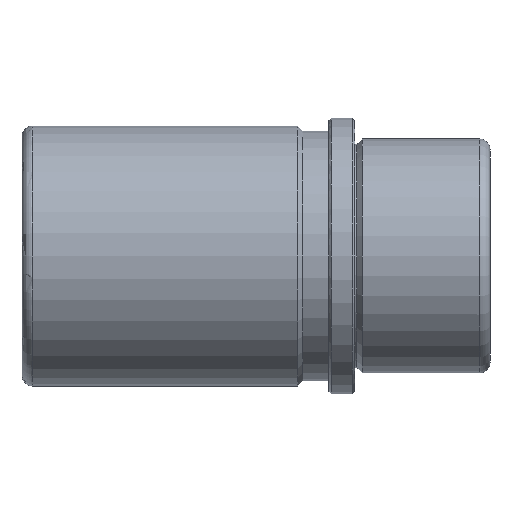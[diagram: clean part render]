
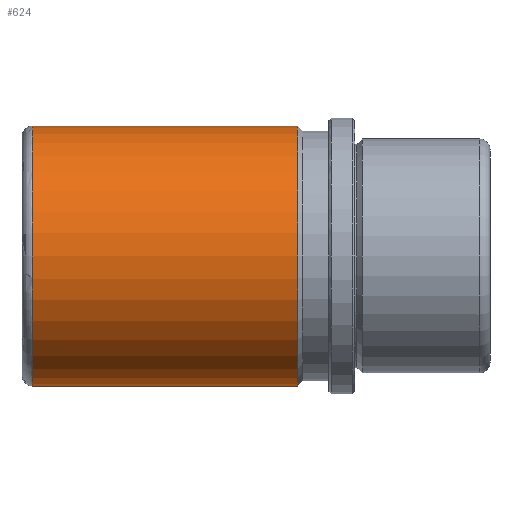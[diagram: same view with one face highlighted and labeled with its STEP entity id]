
A CAD part, front view. The second image highlights one B-rep face of the part: STEP entity #624.
In plain terms, the highlighted cylindrical face has radius 25 mm (diameter 50 mm), a partial arc.
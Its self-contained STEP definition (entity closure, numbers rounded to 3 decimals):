
#409=CARTESIAN_POINT('Line Origine',(26.,0.,25.)) ;
#413=CARTESIAN_POINT('Vertex',(-11.,0.,25.)) ;
#415=CARTESIAN_POINT('Vertex',(-62.,0.,25.)) ;
#429=CARTESIAN_POINT('Vertex',(-11.,0.,-25.)) ;
#432=CARTESIAN_POINT('Line Origine',(26.,0.,-25.)) ;
#436=CARTESIAN_POINT('Vertex',(-62.,0.,-25.)) ;
#587=CARTESIAN_POINT('Axis2P3D Location',(26.,0.,0.)) ;
#592=CARTESIAN_POINT('Axis2P3D Location',(-11.,0.,0.)) ;
#596=CARTESIAN_POINT('Vertex',(-11.,-25.,0.)) ;
#599=CARTESIAN_POINT('Axis2P3D Location',(-11.,0.,0.)) ;
#604=CARTESIAN_POINT('Axis2P3D Location',(-62.,0.,0.)) ;
#608=CARTESIAN_POINT('Vertex',(-62.,-25.,0.)) ;
#611=CARTESIAN_POINT('Axis2P3D Location',(-62.,0.,0.)) ;
#410=DIRECTION('Vector Direction',(-1.,0.,0.)) ;
#433=DIRECTION('Vector Direction',(-1.,0.,0.)) ;
#588=DIRECTION('Axis2P3D Direction',(-1.,-0.,-0.)) ;
#589=DIRECTION('Axis2P3D XDirection',(0.,0.,-1.)) ;
#593=DIRECTION('Axis2P3D Direction',(-1.,-0.,-0.)) ;
#600=DIRECTION('Axis2P3D Direction',(-1.,-0.,-0.)) ;
#605=DIRECTION('Axis2P3D Direction',(-1.,-0.,-0.)) ;
#612=DIRECTION('Axis2P3D Direction',(-1.,-0.,-0.)) ;
#590=AXIS2_PLACEMENT_3D('Cylinder Axis2P3D',#587,#588,#589) ;
#594=AXIS2_PLACEMENT_3D('Circle Axis2P3D',#592,#593,$) ;
#601=AXIS2_PLACEMENT_3D('Circle Axis2P3D',#599,#600,$) ;
#606=AXIS2_PLACEMENT_3D('Circle Axis2P3D',#604,#605,$) ;
#613=AXIS2_PLACEMENT_3D('Circle Axis2P3D',#611,#612,$) ;
#617=ORIENTED_EDGE('',*,*,#438,.T.) ;
#618=ORIENTED_EDGE('',*,*,#598,.F.) ;
#619=ORIENTED_EDGE('',*,*,#603,.F.) ;
#620=ORIENTED_EDGE('',*,*,#417,.T.) ;
#621=ORIENTED_EDGE('',*,*,#610,.T.) ;
#622=ORIENTED_EDGE('',*,*,#615,.T.) ;
#411=VECTOR('Line Direction',#410,1.) ;
#434=VECTOR('Line Direction',#433,1.) ;
#624=ADVANCED_FACE('FAMO-SF1-E30 x 90',(#623),#591,.T.) ;
#595=CIRCLE('generated circle',#594,25.) ;
#602=CIRCLE('generated circle',#601,25.) ;
#607=CIRCLE('generated circle',#606,25.) ;
#614=CIRCLE('generated circle',#613,25.) ;
#591=CYLINDRICAL_SURFACE('generated cylinder',#590,25.) ;
#417=EDGE_CURVE('',#414,#416,#412,.T.) ;
#438=EDGE_CURVE('',#437,#430,#435,.F.) ;
#598=EDGE_CURVE('',#597,#430,#595,.F.) ;
#603=EDGE_CURVE('',#414,#597,#602,.F.) ;
#610=EDGE_CURVE('',#416,#609,#607,.F.) ;
#615=EDGE_CURVE('',#609,#437,#614,.F.) ;
#616=EDGE_LOOP('',(#617,#618,#619,#620,#621,#622)) ;
#623=FACE_OUTER_BOUND('',#616,.T.) ;
#412=LINE('Line',#409,#411) ;
#435=LINE('Line',#432,#434) ;
#414=VERTEX_POINT('',#413) ;
#416=VERTEX_POINT('',#415) ;
#430=VERTEX_POINT('',#429) ;
#437=VERTEX_POINT('',#436) ;
#597=VERTEX_POINT('',#596) ;
#609=VERTEX_POINT('',#608) ;
